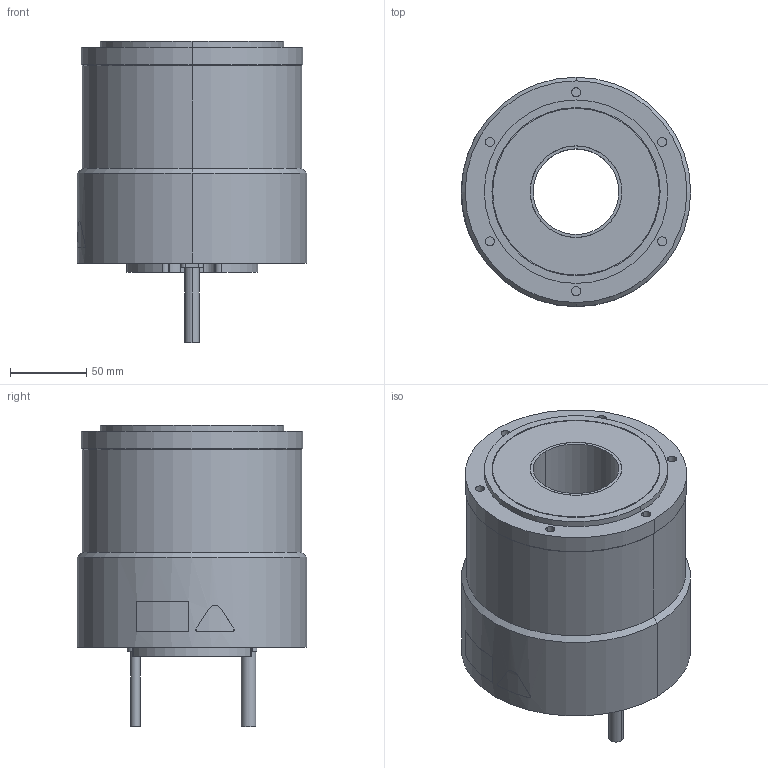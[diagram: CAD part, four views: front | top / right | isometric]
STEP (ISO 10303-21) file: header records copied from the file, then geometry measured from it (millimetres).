
FILE_DESCRIPTION (( 'STEP AP203' ), '1' );
FILE_NAME ('sgm7d_18j_c5_.STEP', '2016-02-23T01:37:17', ( '' ), ( '' ), 'SwSTEP 2.0', 'SolidWorks 2010', '' );
FILE_SCHEMA (( 'CONFIG_CONTROL_DESIGN' ));
Length unit declared in the file: millimetre
Products named in the file (1): sgm7d_18j_c5_
Bounding box: 150.06 x 150 x 197 mm (x, y, z)
Volume: 2036223.1 mm3; surface area: 134357.2 mm2
Topology: 1 solids, 1 shells, 170 faces, 397 edges, 262 vertices
Faces by surface type: cylinder 105, plane 56, bspline 5, cone 4
Entity records: 5276 total; most frequent: CARTESIAN_POINT 1131, DIRECTION 925, ORIENTED_EDGE 794, EDGE_CURVE 397, AXIS2_PLACEMENT_3D 378, VERTEX_POINT 262, CIRCLE 212, EDGE_LOOP 205
